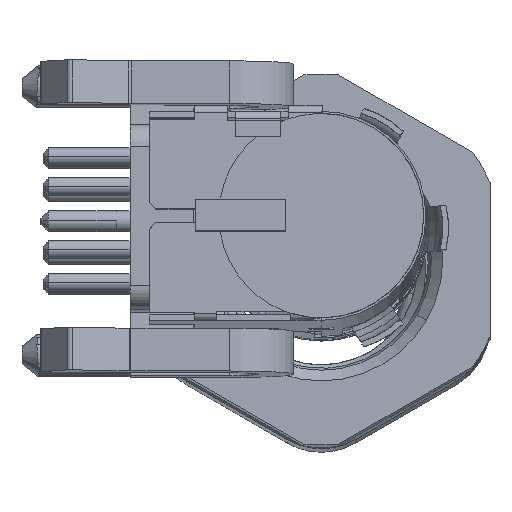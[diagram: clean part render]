
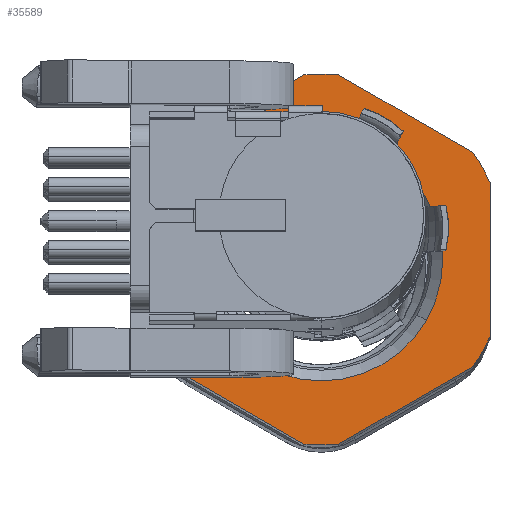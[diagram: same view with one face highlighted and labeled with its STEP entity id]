
A CAD part, front view. The second image highlights one B-rep face of the part: STEP entity #35589.
In plain terms, the highlighted planar face has unit normal (0, -0.999, 0.05).
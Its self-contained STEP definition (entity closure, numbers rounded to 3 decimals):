
#28712=CARTESIAN_POINT('',(47.598,79.442,
-3.744));
#28713=DIRECTION('',(0.,-0.999,0.05));
#28714=DIRECTION('',(-0.815,0.029,0.578));
#28715=AXIS2_PLACEMENT_3D('',#28712,#28713,#28714);
#28741=CARTESIAN_POINT('',(47.598,79.442,
-3.744));
#28742=DIRECTION('',(0.,-0.999,0.05));
#28743=DIRECTION('',(0.815,-0.029,-0.578));
#28744=AXIS2_PLACEMENT_3D('',#28741,#28742,#28743);
#28751=DIRECTION('',(-0.866,-0.025,-0.499));
#28752=VECTOR('',#28751,6.873);
#28753=CARTESIAN_POINT('',(46.825,79.853,4.459));
#28754=LINE('',#28753,#28752);
#28755=CARTESIAN_POINT('',(47.598,79.442,
-3.744));
#28756=DIRECTION('',(0.,-0.999,0.05));
#28757=DIRECTION('',(0.094,0.05,0.994));
#28758=AXIS2_PLACEMENT_3D('',#28755,#28756,#28757);
#28760=DIRECTION('',(-0.866,0.025,0.499));
#28761=VECTOR('',#28760,6.874);
#28762=CARTESIAN_POINT('',(54.325,79.681,1.026));
#28763=LINE('',#28762,#28761);
#28764=CARTESIAN_POINT('',(47.598,79.442,
-3.744));
#28765=DIRECTION('',(0.,-0.999,0.05));
#28766=DIRECTION('',(0.909,0.021,0.416));
#28767=AXIS2_PLACEMENT_3D('',#28764,#28765,#28766);
#28769=DIRECTION('',(0.,0.05,0.999));
#28770=VECTOR('',#28769,6.874);
#28771=CARTESIAN_POINT('',(55.098,79.27,
-7.177));
#28772=LINE('',#28771,#28770);
#28773=DIRECTION('',(0.866,0.025,0.499));
#28774=VECTOR('',#28773,6.874);
#28775=CARTESIAN_POINT('',(48.372,79.031,
-11.948));
#28776=LINE('',#28775,#28774);
#28777=CARTESIAN_POINT('',(47.598,79.442,
-3.744));
#28778=DIRECTION('',(0.,-0.999,0.05));
#28779=DIRECTION('',(-0.094,-0.05,-0.994));
#28780=AXIS2_PLACEMENT_3D('',#28777,#28778,#28779);
#28782=DIRECTION('',(0.866,-0.025,-0.499));
#28783=VECTOR('',#28782,6.874);
#28784=CARTESIAN_POINT('',(40.872,79.203,
-8.515));
#28785=LINE('',#28784,#28783);
#28786=CARTESIAN_POINT('',(47.598,79.442,
-3.744));
#28787=DIRECTION('',(0.,-0.999,0.05));
#28788=DIRECTION('',(-0.909,-0.021,-0.416));
#28789=AXIS2_PLACEMENT_3D('',#28786,#28787,#28788);
#28791=DIRECTION('',(0.,-0.05,-0.999));
#28792=VECTOR('',#28791,6.873);
#28793=CARTESIAN_POINT('',(40.098,79.614,
-0.312));
#28794=LINE('',#28793,#28792);
#28795=CARTESIAN_POINT('',(47.598,79.442,
-3.744));
#28796=DIRECTION('',(0.,0.999,-0.05));
#28797=DIRECTION('',(-0.866,0.025,0.499));
#28798=AXIS2_PLACEMENT_3D('',#28795,#28796,#28797);
#28800=CARTESIAN_POINT('',(47.598,79.442,
-3.744));
#28801=DIRECTION('',(0.,0.999,-0.05));
#28802=DIRECTION('',(0.866,-0.025,-0.499));
#28803=AXIS2_PLACEMENT_3D('',#28800,#28801,#28802);
#29040=CARTESIAN_POINT('',(40.098,79.27,
-7.177));
#29041=CARTESIAN_POINT('',(40.872,79.203,
-8.515));
#29042=VERTEX_POINT('',#29040);
#29043=VERTEX_POINT('',#29041);
#29044=CARTESIAN_POINT('',(46.825,79.031,
-11.948));
#29045=CARTESIAN_POINT('',(48.372,79.031,
-11.948));
#29046=VERTEX_POINT('',#29044);
#29047=VERTEX_POINT('',#29045);
#29048=CARTESIAN_POINT('',(55.098,79.614,
-0.312));
#29049=CARTESIAN_POINT('',(54.325,79.681,1.026));
#29050=VERTEX_POINT('',#29048);
#29051=VERTEX_POINT('',#29049);
#29052=CARTESIAN_POINT('',(48.372,79.853,4.459));
#29053=CARTESIAN_POINT('',(46.825,79.853,4.459));
#29054=VERTEX_POINT('',#29052);
#29055=VERTEX_POINT('',#29053);
#29057=CARTESIAN_POINT('',(40.098,79.614,
-0.312));
#29059=VERTEX_POINT('',#29057);
#29061=CARTESIAN_POINT('',(54.325,79.203,
-8.515));
#29063=VERTEX_POINT('',#29061);
#29065=CARTESIAN_POINT('',(55.098,79.27,
-7.177));
#29067=VERTEX_POINT('',#29065);
#29069=CARTESIAN_POINT('',(40.872,79.681,1.027));
#29071=VERTEX_POINT('',#29069);
#29120=CARTESIAN_POINT('',(42.922,79.577,
-1.048));
#29121=CARTESIAN_POINT('',(52.275,79.307,
-6.441));
#29122=VERTEX_POINT('',#29120);
#29123=VERTEX_POINT('',#29121);
#35559=CARTESIAN_POINT('',(47.598,79.442,
-3.744));
#35560=DIRECTION('',(0.,-0.999,0.05));
#35561=DIRECTION('',(0.5,0.043,0.865));
#35562=AXIS2_PLACEMENT_3D('',#35559,#35560,#35561);
#35563=PLANE('',#35562);
#35564=ORIENTED_EDGE('',*,*,#35468,.F.);
#35565=ORIENTED_EDGE('',*,*,#35482,.F.);
#35566=ORIENTED_EDGE('',*,*,#35497,.F.);
#35567=ORIENTED_EDGE('',*,*,#35510,.F.);
#35568=ORIENTED_EDGE('',*,*,#35525,.F.);
#35569=ORIENTED_EDGE('',*,*,#35538,.F.);
#35570=ORIENTED_EDGE('',*,*,#35550,.F.);
#35572=ORIENTED_EDGE('',*,*,#35571,.F.);
#35574=ORIENTED_EDGE('',*,*,#35573,.F.);
#35576=ORIENTED_EDGE('',*,*,#35575,.F.);
#35578=ORIENTED_EDGE('',*,*,#35577,.F.);
#35580=ORIENTED_EDGE('',*,*,#35579,.F.);
#35581=EDGE_LOOP('',(#35564,#35565,#35566,#35567,#35568,#35569,#35570,#35572,
#35574,#35576,#35578,#35580));
#35582=FACE_OUTER_BOUND('',#35581,.F.);
#35584=ORIENTED_EDGE('',*,*,#35583,.F.);
#35586=ORIENTED_EDGE('',*,*,#35585,.F.);
#35587=EDGE_LOOP('',(#35584,#35586));
#35588=FACE_BOUND('',#35587,.F.);
#35589=ADVANCED_FACE('',(#35582,#35588),#35563,.T.);
#28716=CIRCLE('',#28715,8.25);
#28745=CIRCLE('',#28744,8.25);
#28759=CIRCLE('',#28758,8.25);
#28768=CIRCLE('',#28767,8.25);
#28781=CIRCLE('',#28780,8.25);
#28790=CIRCLE('',#28789,8.25);
#28799=CIRCLE('',#28798,5.4);
#28804=CIRCLE('',#28803,5.4);
#35468=EDGE_CURVE('',#29071,#29059,#28716,.T.);
#35482=EDGE_CURVE('',#29055,#29071,#28754,.T.);
#35497=EDGE_CURVE('',#29054,#29055,#28759,.T.);
#35510=EDGE_CURVE('',#29051,#29054,#28763,.T.);
#35525=EDGE_CURVE('',#29050,#29051,#28768,.T.);
#35538=EDGE_CURVE('',#29067,#29050,#28772,.T.);
#35550=EDGE_CURVE('',#29063,#29067,#28745,.T.);
#35571=EDGE_CURVE('',#29047,#29063,#28776,.T.);
#35573=EDGE_CURVE('',#29046,#29047,#28781,.T.);
#35575=EDGE_CURVE('',#29043,#29046,#28785,.T.);
#35577=EDGE_CURVE('',#29042,#29043,#28790,.T.);
#35579=EDGE_CURVE('',#29059,#29042,#28794,.T.);
#35583=EDGE_CURVE('',#29122,#29123,#28799,.T.);
#35585=EDGE_CURVE('',#29123,#29122,#28804,.T.);
